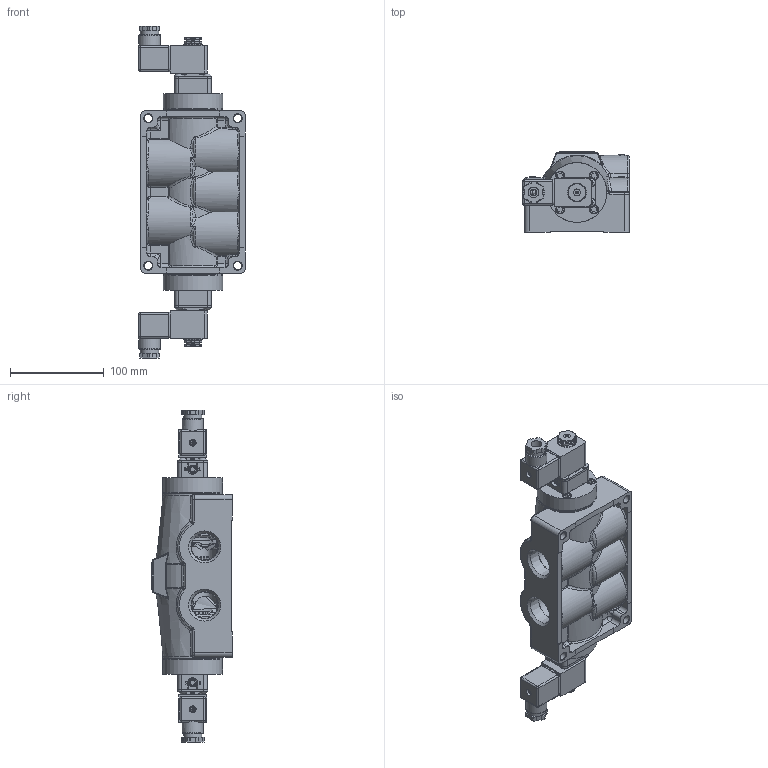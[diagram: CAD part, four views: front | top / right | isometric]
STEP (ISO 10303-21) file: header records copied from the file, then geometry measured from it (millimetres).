
FILE_DESCRIPTION(/* description */ (''),/* implementation_level */ '2;1');
FILE_NAME(/* name */ 'D:\Website Files\stp\Valves\Standard\ESS\ESS8AC.stp',/* time_stamp */ '2016-03-24T08:56:35-04:00',/* author */ ('RMcKenna'),/* organization */ (''),/* preprocessor_version */ 'ST-DEVELOPER v15.6',/* originating_system */ 'Autodesk Inventor 2015',/* authorisation */ '');
FILE_SCHEMA (('AUTOMOTIVE_DESIGN { 1 0 10303 214 3 1 1 }'));
Products named in the file (1): Part7
Bounding box: 113.26 x 85.69 x 353.77 mm (x, y, z)
Volume: 1140286.2 mm3; surface area: 257709.7 mm2
Topology: 1 solids, 48 shells, 3603 faces, 8925 edges, 5567 vertices
Faces by surface type: plane 1528, cylinder 1014, cone 397, bspline 316, torus 248, sphere 100
Full cylindrical faces by diameter (mm): 1.168 x20, 1.3 x2, 1.5 x2, 1.651 x2, 2.007 x4, 2.032 x16, 2.261 x2, 2.35 x8, 2.388 x2, 2.5 x2, 2.778 x2, 2.8 x2, 2.819 x2, 2.845 x4, 3 x8, 3.048 x6, 3.175 x4, 3.4 x2, 3.683 x8, 3.962 x2, 4.064 x2, 4.191 x4, 4.826 x8, 4.953 x2, 4.978 x8, 5.15 x8, 5.156 x8, 5.385 x2, 5.5 x2, 5.537 x2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
Entity records: 130956 total; most frequent: CARTESIAN_POINT 46881, DIRECTION 16435, ORIENTED_EDGE 16248, EDGE_CURVE 8120, AXIS2_PLACEMENT_3D 6346, VERTEX_POINT 5307, EDGE_LOOP 4449, LINE 3743
